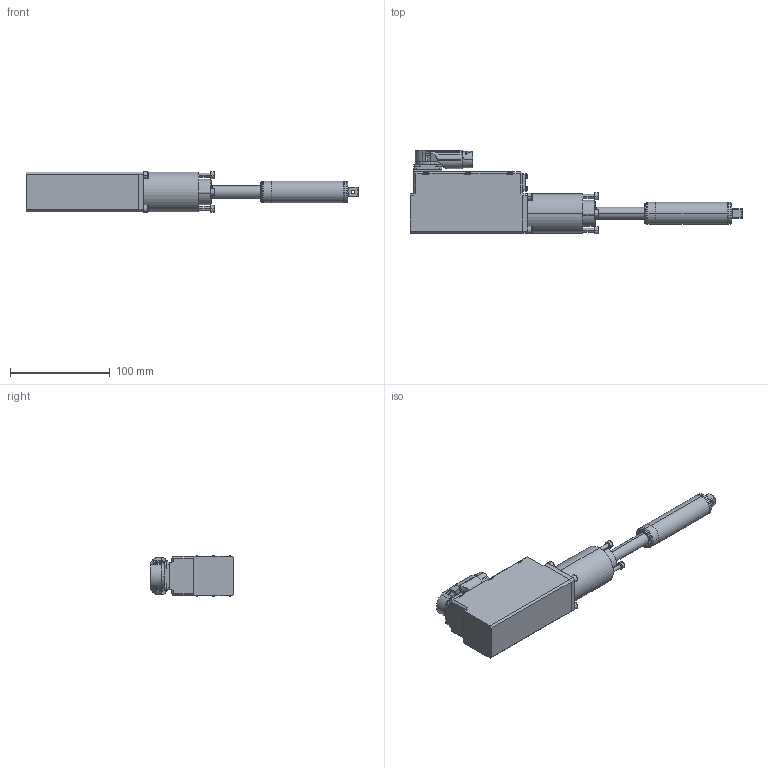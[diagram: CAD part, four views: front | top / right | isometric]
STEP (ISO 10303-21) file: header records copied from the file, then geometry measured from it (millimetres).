
FILE_DESCRIPTION (( 'STEP AP214' ), '1' );
FILE_NAME ('70121596_KSX1015ZF50.STEP', '2020-01-15T13:21:17', ( 'admin' ), ( '' ), 'SwSTEP 2.0', 'SolidWorks 2017', '' );
FILE_SCHEMA (( 'AUTOMOTIVE_DESIGN' ));
Length unit declared in the file: millimetre
Products named in the file (9): 7002230_3; 70111026; 70111010; 70111000_KSX1_Stecker_vorne; 70111180_Pos_vorne; 70111180; 70111180_2; 70111000; 70121596_KSX1015ZF50
Assembly tree (8 placements, depth 4):
  70121596_KSX1015ZF50
    70111000_KSX1_Stecker_vorne
      70111000
      70111180_Pos_vorne
        70111180_2
        70111180
    70111010
    70111026
    7002230_3
Bounding box: 333.2 x 83.9 x 41 mm (x, y, z)
Volume: 415187.3 mm3; surface area: 84207.1 mm2
Topology: 10 solids, 12 shells, 1704 faces, 4351 edges, 2754 vertices
Faces by surface type: cylinder 743, plane 500, cone 251, torus 119, sphere 48, bspline 43
Entity records: 63356 total; most frequent: CARTESIAN_POINT 15177, ORIENTED_EDGE 8570, DIRECTION 8345, EDGE_CURVE 4285, AXIS2_PLACEMENT_3D 3351, VERTEX_POINT 2754, EDGE_LOOP 1873, FACE_OUTER_BOUND 1704
